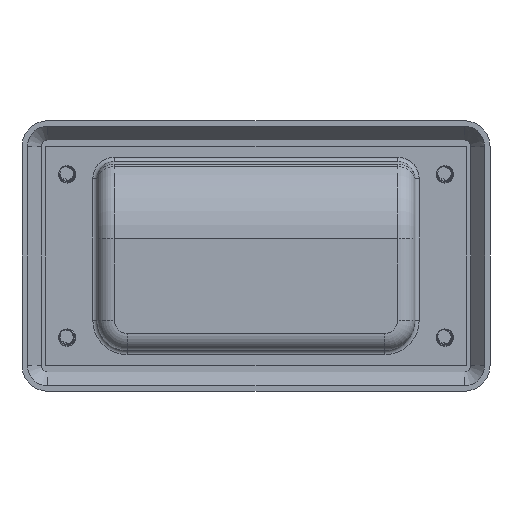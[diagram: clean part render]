
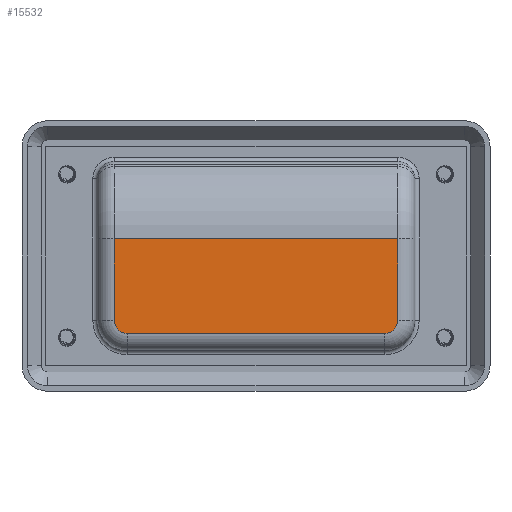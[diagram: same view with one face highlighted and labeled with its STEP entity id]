
A CAD part, front view. The second image highlights one B-rep face of the part: STEP entity #15532.
In plain terms, the highlighted planar face has unit normal (0, -1, 0) as drawn and (0, 1, 0) by its records, which use the part's own axes.
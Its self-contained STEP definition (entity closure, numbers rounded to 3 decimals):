
#40 = DIRECTION ( 'NONE',  ( 0., 0., 1. ) ) ;
#1766 = DIRECTION ( 'NONE',  ( 1., 0., 0. ) ) ;
#2646 = VECTOR ( 'NONE', #20063, 1000. ) ;
#3423 = EDGE_CURVE ( 'NONE', #4745, #4718, #12936, .T. ) ;
#4093 = FACE_OUTER_BOUND ( 'NONE', #53424, .T. ) ;
#4688 = CARTESIAN_POINT ( 'NONE',  ( -33., 17., 15. ) ) ;
#4718 = VERTEX_POINT ( 'NONE', #46602 ) ;
#4745 = VERTEX_POINT ( 'NONE', #12594 ) ;
#5352 = CARTESIAN_POINT ( 'NONE',  ( 33., 17., -4. ) ) ;
#6937 = CARTESIAN_POINT ( 'NONE',  ( 37., 17., 18. ) ) ;
#8351 = CARTESIAN_POINT ( 'NONE',  ( 0., 17., 0. ) ) ;
#12594 = CARTESIAN_POINT ( 'NONE',  ( 30., 17., 18. ) ) ;
#12707 = VERTEX_POINT ( 'NONE', #41555 ) ;
#12936 = CIRCLE ( 'NONE', #31834, 3. ) ;
#14209 = VECTOR ( 'NONE', #1766, 1000. ) ;
#15360 = ORIENTED_EDGE ( 'NONE', *, *, #21028, .F. ) ;
#15436 = ORIENTED_EDGE ( 'NONE', *, *, #30908, .T. ) ;
#15532 = ADVANCED_FACE ( 'NONE', ( #4093 ), #29662, .T. ) ;
#16857 = CARTESIAN_POINT ( 'NONE',  ( 33., 17., -4. ) ) ;
#20063 = DIRECTION ( 'NONE',  ( 1., 0., 0. ) ) ;
#21028 = EDGE_CURVE ( 'NONE', #31180, #26179, #25372, .T. ) ;
#21219 = DIRECTION ( 'NONE',  ( 0., 0., 1. ) ) ;
#22276 = DIRECTION ( 'NONE',  ( 0., 1., 0. ) ) ;
#22571 = CARTESIAN_POINT ( 'NONE',  ( 30., 17., 15. ) ) ;
#23437 = LINE ( 'NONE', #43156, #36171 ) ;
#23783 = EDGE_CURVE ( 'NONE', #12707, #4745, #48313, .T. ) ;
#25372 = LINE ( 'NONE', #45663, #2646 ) ;
#26179 = VERTEX_POINT ( 'NONE', #5352 ) ;
#26510 = ORIENTED_EDGE ( 'NONE', *, *, #38547, .T. ) ;
#26886 = DIRECTION ( 'NONE',  ( 0., 0., 1. ) ) ;
#29662 = PLANE ( 'NONE',  #44627 ) ;
#30908 = EDGE_CURVE ( 'NONE', #31180, #41071, #23437, .T. ) ;
#31180 = VERTEX_POINT ( 'NONE', #39779 ) ;
#31834 = AXIS2_PLACEMENT_3D ( 'NONE', #22571, #52455, #26886 ) ;
#33023 = ORIENTED_EDGE ( 'NONE', *, *, #48432, .T. ) ;
#33451 = AXIS2_PLACEMENT_3D ( 'NONE', #47884, #22276, #52150 ) ;
#35284 = ORIENTED_EDGE ( 'NONE', *, *, #3423, .T. ) ;
#36171 = VECTOR ( 'NONE', #40, 1000. ) ;
#38547 = EDGE_CURVE ( 'NONE', #4718, #26179, #40026, .T. ) ;
#38668 = CIRCLE ( 'NONE', #33451, 3. ) ;
#39779 = CARTESIAN_POINT ( 'NONE',  ( -33., 17., -4. ) ) ;
#40026 = LINE ( 'NONE', #16857, #48694 ) ;
#41071 = VERTEX_POINT ( 'NONE', #4688 ) ;
#41555 = CARTESIAN_POINT ( 'NONE',  ( -30., 17., 18. ) ) ;
#43156 = CARTESIAN_POINT ( 'NONE',  ( -33., 17., 15. ) ) ;
#44627 = AXIS2_PLACEMENT_3D ( 'NONE', #8351, #46827, #21219 ) ;
#45663 = CARTESIAN_POINT ( 'NONE',  ( 59., 17., -4. ) ) ;
#46602 = CARTESIAN_POINT ( 'NONE',  ( 33., 17., 15. ) ) ;
#46729 = DIRECTION ( 'NONE',  ( 0., 0., -1. ) ) ;
#46827 = DIRECTION ( 'NONE',  ( 0., 1., 0. ) ) ;
#47884 = CARTESIAN_POINT ( 'NONE',  ( -30., 17., 15. ) ) ;
#48313 = LINE ( 'NONE', #6937, #14209 ) ;
#48432 = EDGE_CURVE ( 'NONE', #41071, #12707, #38668, .T. ) ;
#48694 = VECTOR ( 'NONE', #46729, 1000. ) ;
#49635 = ORIENTED_EDGE ( 'NONE', *, *, #23783, .T. ) ;
#52150 = DIRECTION ( 'NONE',  ( 0., 0., 1. ) ) ;
#52455 = DIRECTION ( 'NONE',  ( 0., 1., 0. ) ) ;
#53424 = EDGE_LOOP ( 'NONE', ( #49635, #35284, #26510, #15360, #15436, #33023 ) ) ;
